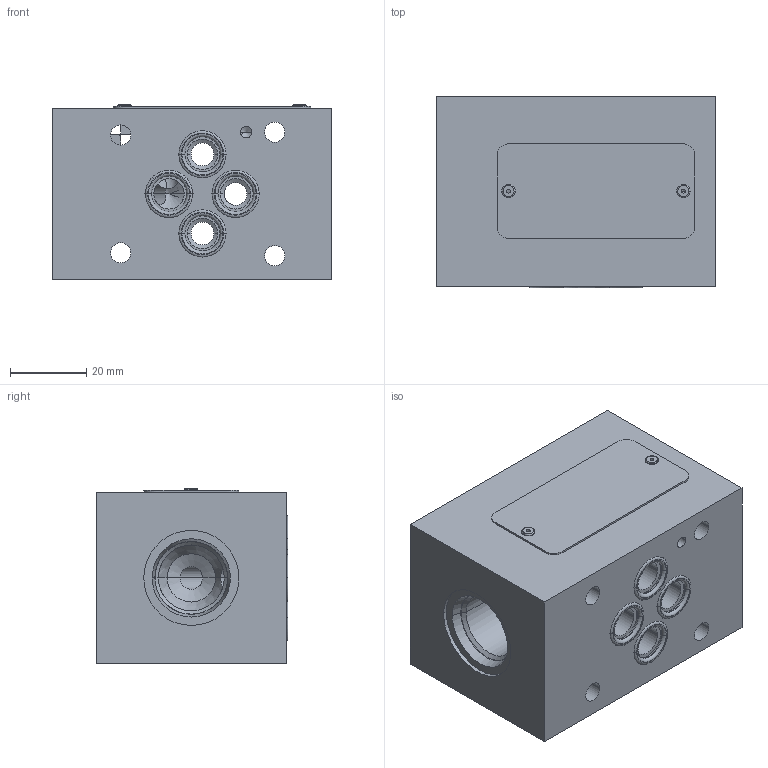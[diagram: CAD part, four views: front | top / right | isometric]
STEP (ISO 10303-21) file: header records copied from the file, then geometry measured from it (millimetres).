
FILE_DESCRIPTION((''),'2;1');
FILE_NAME('1000299409_ASM','2023-10-12T',('l.soukupova'),(''),'PRO/ENGINEER BY PARAMETRIC TECHNOLOGY CORPORATION, 2015440','PRO/ENGINEER BY PARAMETRIC TECHNOLOGY CORPORATION, 2015440','');
FILE_SCHEMA(('AUTOMOTIVE_DESIGN { 1 0 10303 214 1 1 1 1 }'));
Length unit declared in the file: millimetre
Products named in the file (5): 30122702; RD_LABEL_25X52_159703; AF_1932_16485; ORAR00012_201524; 1000299409_ASM
Assembly tree (8 placements, depth 2):
  1000299409_ASM
    30122702
    RD_LABEL_25X52_159703
    AF_1932_16485  x2
    ORAR00012_201524  x4
Bounding box: 73.5 x 50.38 x 46 mm (x, y, z)
Volume: 147321.6 mm3; surface area: 31912.5 mm2
Topology: 8 solids, 11 shells, 191 faces, 580 edges, 484 vertices
Faces by surface type: cylinder 92, torus 36, plane 34, cone 29
Entity records: 8393 total; most frequent: CARTESIAN_POINT 1519, DIRECTION 978, ORIENTED_EDGE 646, PRESENTATION_STYLE_ASSIGNMENT 584, STYLED_ITEM 514, CURVE_STYLE 508, AXIS2_PLACEMENT_3D 374, EDGE_CURVE 329
